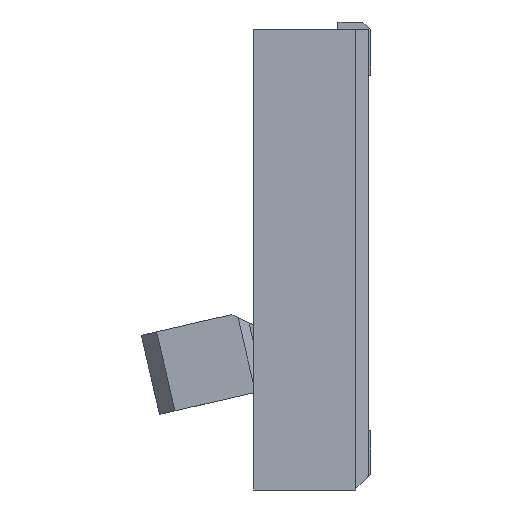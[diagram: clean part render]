
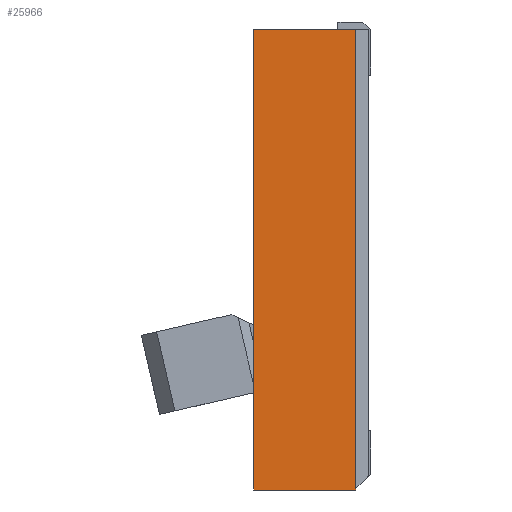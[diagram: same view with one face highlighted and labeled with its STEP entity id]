
A CAD part, left-side view. The second image highlights one B-rep face of the part: STEP entity #25966.
In plain terms, the highlighted planar face has unit normal (-1, 0, 0).
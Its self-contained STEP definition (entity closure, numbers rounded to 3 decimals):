
#51=DIRECTION('',(0.,-1.,0.));
#52=VECTOR('',#51,0.655);
#53=CARTESIAN_POINT('',(-5.4,0.735,-1.475));
#54=LINE('',#53,#52);
#4131=DIRECTION('',(0.,-1.,0.));
#4132=VECTOR('',#4131,0.655);
#4133=CARTESIAN_POINT('',(-5.4,0.735,1.475));
#4134=LINE('',#4133,#4132);
#6644=DIRECTION('',(0.,0.,1.));
#6645=VECTOR('',#6644,2.95);
#6646=CARTESIAN_POINT('',(-5.4,0.735,-1.475));
#6647=LINE('',#6646,#6645);
#6652=DIRECTION('',(0.,0.,1.));
#6653=VECTOR('',#6652,2.95);
#6654=CARTESIAN_POINT('',(-5.4,0.08,-1.475));
#6655=LINE('',#6654,#6653);
#15217=CARTESIAN_POINT('',(-5.4,0.735,-1.475));
#15218=CARTESIAN_POINT('',(-5.4,0.08,-1.475));
#15219=VERTEX_POINT('',#15217);
#15220=VERTEX_POINT('',#15218);
#15225=CARTESIAN_POINT('',(-5.4,0.735,1.475));
#15226=CARTESIAN_POINT('',(-5.4,0.08,1.475));
#15227=VERTEX_POINT('',#15225);
#15228=VERTEX_POINT('',#15226);
#25954=CARTESIAN_POINT('',(-5.4,0.735,-1.475));
#25955=DIRECTION('',(-1.,0.,0.));
#25956=DIRECTION('',(0.,-1.,0.));
#25957=AXIS2_PLACEMENT_3D('',#25954,#25955,#25956);
#25958=PLANE('',#25957);
#25959=ORIENTED_EDGE('',*,*,#20121,.F.);
#25960=ORIENTED_EDGE('',*,*,#25903,.T.);
#25961=ORIENTED_EDGE('',*,*,#23551,.T.);
#25963=ORIENTED_EDGE('',*,*,#25962,.F.);
#25964=EDGE_LOOP('',(#25959,#25960,#25961,#25963));
#25965=FACE_OUTER_BOUND('',#25964,.F.);
#25966=ADVANCED_FACE('',(#25965),#25958,.T.);
#20121=EDGE_CURVE('',#15219,#15220,#54,.T.);
#23551=EDGE_CURVE('',#15227,#15228,#4134,.T.);
#25903=EDGE_CURVE('',#15219,#15227,#6647,.T.);
#25962=EDGE_CURVE('',#15220,#15228,#6655,.T.);
